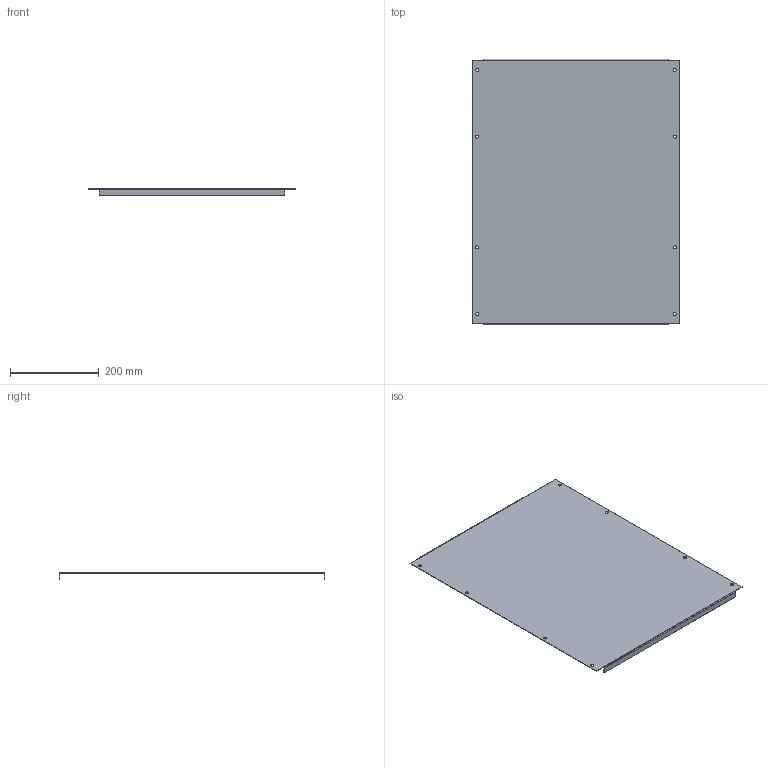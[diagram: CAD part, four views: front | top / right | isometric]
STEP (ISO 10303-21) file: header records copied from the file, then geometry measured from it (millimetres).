
FILE_DESCRIPTION (( 'STEP AP203' ), '1' );
FILE_NAME ('MB 60.50 Ïàíåëü ìîäóëüíàÿ.STEP', '2012-11-21T07:18:16', ( 'system' ), ( '' ), 'SwSTEP 2.0', 'SolidWorks 2012', '' );
FILE_SCHEMA (( 'CONFIG_CONTROL_DESIGN' ));
Length unit declared in the file: millimetre
Products named in the file (1): MB 60.50 Ïàíåëü ìîäóëüíàÿ
Bounding box: 465 x 599 x 15 mm (x, y, z)
Volume: 346708 mm3; surface area: 580673.9 mm2
Topology: 1 solids, 1 shells, 42 faces, 104 edges, 64 vertices
Faces by surface type: plane 22, cylinder 20
Entity records: 1349 total; most frequent: DIRECTION 230, CARTESIAN_POINT 211, ORIENTED_EDGE 208, EDGE_CURVE 104, AXIS2_PLACEMENT_3D 83, VECTOR 64, LINE 64, VERTEX_POINT 64
